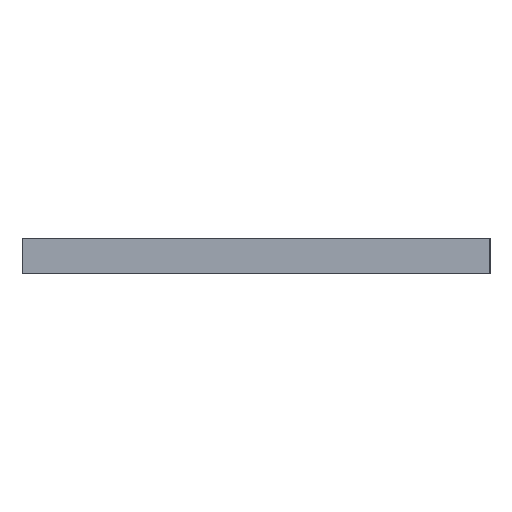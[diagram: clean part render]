
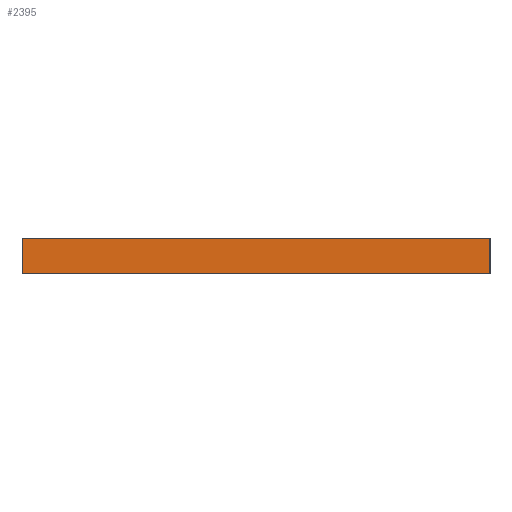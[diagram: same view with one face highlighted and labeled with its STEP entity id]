
A CAD part, left-side view. The second image highlights one B-rep face of the part: STEP entity #2395.
In plain terms, the highlighted planar face has unit normal (-1, 0, 0).
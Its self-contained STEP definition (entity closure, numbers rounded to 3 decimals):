
#1452 = VERTEX_POINT ( 'NONE', #5064 ) ;
#1491 = EDGE_CURVE ( 'NONE', #1452, #1492, #5080, .T. ) ;
#1492 = VERTEX_POINT ( 'NONE', #5076 ) ;
#2386 = EDGE_CURVE ( 'NONE', #1452, #2403, #6882, .T. ) ;
#2395 = ADVANCED_FACE ( 'NONE', ( #6853 ), #6852, .T. ) ;
#2396 = EDGE_LOOP ( 'NONE', ( #2397, #2398, #2401, #2404 ) ) ;
#2397 = ORIENTED_EDGE ( 'NONE', *, *, #1491, .T. ) ;
#2398 = ORIENTED_EDGE ( 'NONE', *, *, #2399, .F. ) ;
#2399 = EDGE_CURVE ( 'NONE', #2400, #1492, #6907, .T. ) ;
#2400 = VERTEX_POINT ( 'NONE', #6903 ) ;
#2401 = ORIENTED_EDGE ( 'NONE', *, *, #2402, .F. ) ;
#2402 = EDGE_CURVE ( 'NONE', #2403, #2400, #6902, .T. ) ;
#2403 = VERTEX_POINT ( 'NONE', #6898 ) ;
#2404 = ORIENTED_EDGE ( 'NONE', *, *, #2386, .F. ) ;
#5064 = CARTESIAN_POINT ( 'NONE',  ( 0., 200., 0. ) ) ;
#5076 = CARTESIAN_POINT ( 'NONE',  ( 0., 0., 0. ) ) ;
#5077 = DIRECTION ( 'NONE',  ( 0., -1., 0. ) ) ;
#5078 = VECTOR ( 'NONE', #5077, 1000. ) ;
#5079 = CARTESIAN_POINT ( 'NONE',  ( 0., 0., 0. ) ) ;
#5080 = LINE ( 'NONE', #5079, #5078 ) ;
#6852 = PLANE ( 'NONE',  #6911 ) ;
#6853 = FACE_OUTER_BOUND ( 'NONE', #2396, .T. ) ;
#6879 = DIRECTION ( 'NONE',  ( 0., 0., 1. ) ) ;
#6880 = VECTOR ( 'NONE', #6879, 1000. ) ;
#6881 = CARTESIAN_POINT ( 'NONE',  ( 0., 200., 0. ) ) ;
#6882 = LINE ( 'NONE', #6881, #6880 ) ;
#6898 = CARTESIAN_POINT ( 'NONE',  ( 0., 200., 15. ) ) ;
#6899 = DIRECTION ( 'NONE',  ( 0., -1., 0. ) ) ;
#6900 = VECTOR ( 'NONE', #6899, 1000. ) ;
#6901 = CARTESIAN_POINT ( 'NONE',  ( 0., 100., 15. ) ) ;
#6902 = LINE ( 'NONE', #6901, #6900 ) ;
#6903 = CARTESIAN_POINT ( 'NONE',  ( 0., 0., 15. ) ) ;
#6904 = DIRECTION ( 'NONE',  ( 0., 0., -1. ) ) ;
#6905 = VECTOR ( 'NONE', #6904, 1000. ) ;
#6906 = CARTESIAN_POINT ( 'NONE',  ( 0., 0., 0. ) ) ;
#6907 = LINE ( 'NONE', #6906, #6905 ) ;
#6908 = DIRECTION ( 'NONE',  ( 0., -1., 0. ) ) ;
#6909 = DIRECTION ( 'NONE',  ( -1., 0., 0. ) ) ;
#6910 = CARTESIAN_POINT ( 'NONE',  ( 0., 0., 0. ) ) ;
#6911 = AXIS2_PLACEMENT_3D ( 'NONE', #6910, #6909, #6908 ) ;
